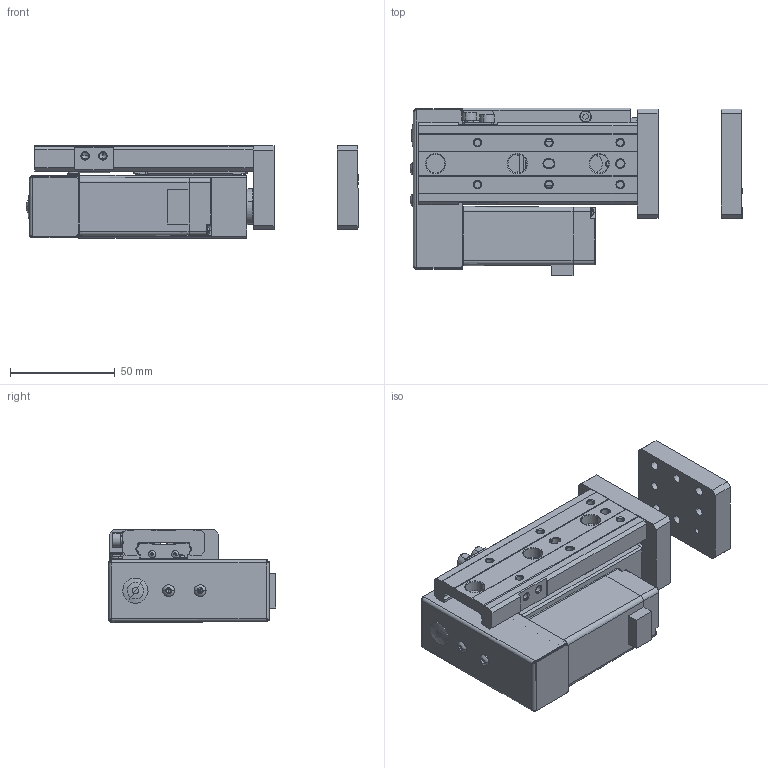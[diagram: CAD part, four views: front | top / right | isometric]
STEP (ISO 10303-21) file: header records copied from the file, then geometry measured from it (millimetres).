
FILE_DESCRIPTION (( 'STEP AP203' ), '1' );
FILE_NAME ('CSS12L-xx-40-xx-CSO-xx-xx.STEP', '2024-10-18T05:53:43', ( 'Windows User' ), ( 'P R C' ), 'SwSTEP 2.0', 'SolidWorks 2018', '' );
FILE_SCHEMA (( 'CONFIG_CONTROL_DESIGN' ));
Length unit declared in the file: millimetre
Products named in the file (18): 复件 十字槽盘头螺钉YM3-6^SS12L-1.5-40（客用）; 复件 内六角杯头螺钉M4-8^SS12L-1.5-40（客用）; 复件 RB-WS22015-P006  连接件^SS12L-1.5-40（客用）; 复件 RB-WS22015-B003-01  RAIL（MXQ12-50-滑台）^SS12L-1.5-40（客用）; 复件 内六角杯头螺钉M4-12^SS12L-1.5-40（客用）; 复件 COVER END^SS12L-1.5-40（客用）; 复件 RB-WS22015-B003-02  BLOCK（MXQ12-40滑块）^SS12L-1.5-40（客用）; 复件 RB-WS22015-P001-02  FRAME（ST=40）^SS12L-1.5-40（客用）; 复件 28闭环步进电机-客用3D^SS12L-1.5-40（客用）; 复件 内六角杯头螺钉M3-6^SS12L-1.5-40（客用）; 复件 内六角杯头螺钉M4-10^SS12L-1.5-40（客用）; 复件 RB-ES23002-P007-01  限位块^SS12L-1.5-40（客用）; 复件 内六角圆头螺钉M3^SS12L-1.5-40（客用）; CSS12L-xx-40-xx-CSO-xx-xx; 复件 RB-WS22015-P002  安装板^SS12L-1.5-40（客用）; 复件 SVS-23RB12SL-B010  堵头塞子（φ8宽边带槽型）^SS12L-1.5-40（客用）; 复件 MOTOR PLATE^SS12L-1.5-40（客用）; 复件 销钉3-7^SS12L-1.5-40（客用）
Assembly tree (22 placements, depth 2):
  CSS12L-xx-40-xx-CSO-xx-xx
    复件 RB-WS22015-P001-02  FRAME（ST=40）^SS12L-1.5-40（客用）
    复件 RB-WS22015-P002  安装板^SS12L-1.5-40（客用）  x2
    复件 RB-WS22015-P006  连接件^SS12L-1.5-40（客用）
    复件 RB-WS22015-B003-01  RAIL（MXQ12-50-滑台）^SS12L-1.5-40（客用）
    复件 RB-WS22015-B003-02  BLOCK（MXQ12-40滑块）^SS12L-1.5-40（客用）
    复件 内六角杯头螺钉M4-12^SS12L-1.5-40（客用）  x2
    复件 内六角杯头螺钉M4-10^SS12L-1.5-40（客用）
    复件 十字槽盘头螺钉YM3-6^SS12L-1.5-40（客用）
    复件 销钉3-7^SS12L-1.5-40（客用）  x2
    复件 内六角杯头螺钉M4-8^SS12L-1.5-40（客用）  x2
    复件 内六角杯头螺钉M3-6^SS12L-1.5-40（客用）
    复件 RB-ES23002-P007-01  限位块^SS12L-1.5-40（客用）
    复件 SVS-23RB12SL-B010  堵头塞子（φ8宽边带槽型）^SS12L-1.5-40（客用）
    复件 28闭环步进电机-客用3D^SS12L-1.5-40（客用）
    复件 COVER END^SS12L-1.5-40（客用）
    复件 MOTOR PLATE^SS12L-1.5-40（客用）
    复件 内六角圆头螺钉M3^SS12L-1.5-40（客用）  x2
Bounding box: 158.15 x 79.88 x 44 mm (x, y, z)
Volume: 252941.5 mm3; surface area: 82710.1 mm2
Topology: 64 solids, 64 shells, 1263 faces, 3141 edges, 1890 vertices
Faces by surface type: plane 537, cylinder 360, cone 222, bspline 108, torus 30, sphere 6
Entity records: 38629 total; most frequent: CARTESIAN_POINT 10002, DIRECTION 5620, ORIENTED_EDGE 5400, EDGE_CURVE 2700, AXIS2_PLACEMENT_3D 2043, VERTEX_POINT 1724, VECTOR 1534, LINE 1534
